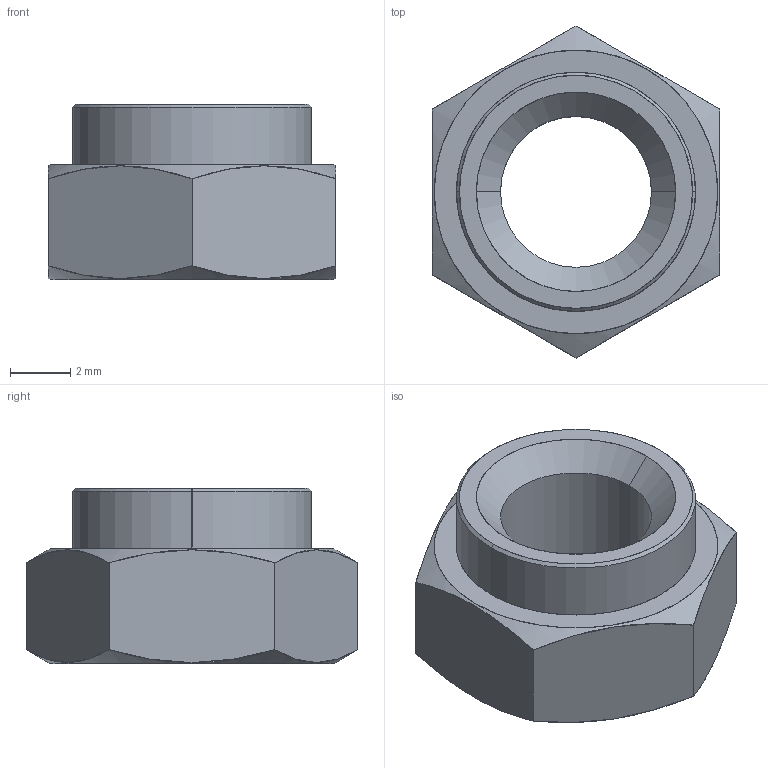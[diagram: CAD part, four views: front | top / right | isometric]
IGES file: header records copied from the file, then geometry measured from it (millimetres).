
Start section: SolidWorks IGES file using analytic representation for surfaces
Global section: file name: C:\Users\liam_\OneDrive\Desktop\Work\Mat Davis Pending 20181125\automotion\P SERIES\P0827.ZP_v2\P0827.ZP_v2_20181231_IGES\P0827.050-16G-ZP.igs; native system: SolidWorks 2017; preprocessor: SolidWorks 2017; author: liam_; date: 181231.110603; units: millimetre
Bounding box: 9.52 x 10.99 x 5.81 mm (x, y, z)
Surface area: 360.7 mm2 (no closed solid volume)
Topology: 0 solids, 0 shells, 23 faces, 376 edges, 376 vertices
Faces by surface type: revolution 14, bspline 9
